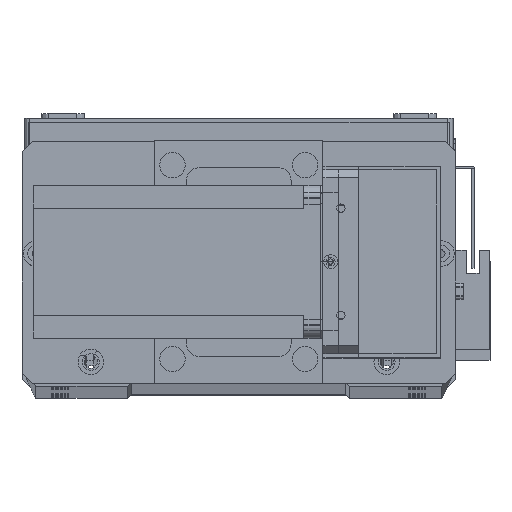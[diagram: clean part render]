
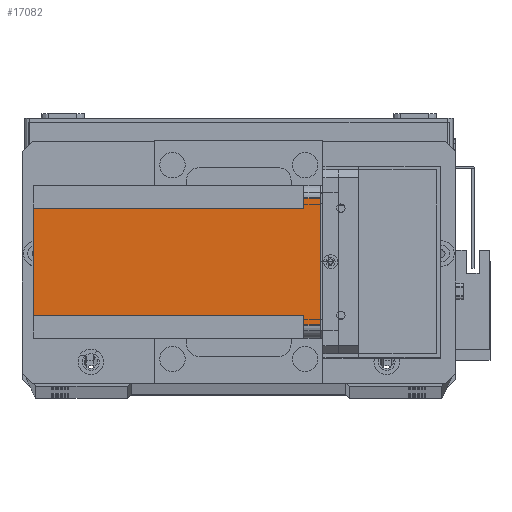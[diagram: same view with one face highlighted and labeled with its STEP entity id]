
A CAD part, top view. The second image highlights one B-rep face of the part: STEP entity #17082.
In plain terms, the highlighted planar face has unit normal (0, 0, 1) as drawn and (-1, 0, 0) by its records, which use the part's own axes.
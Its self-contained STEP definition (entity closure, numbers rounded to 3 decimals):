
#320 = DIRECTION ( 'NONE',  ( 0., 0., -1. ) ) ;
#520 = DIRECTION ( 'NONE',  ( 0., -1., 0. ) ) ;
#1404 = LINE ( 'NONE', #12863, #7713 ) ;
#2229 = LINE ( 'NONE', #19521, #8540 ) ;
#2721 = VERTEX_POINT ( 'NONE', #5644 ) ;
#3143 = ORIENTED_EDGE ( 'NONE', *, *, #26047, .F. ) ;
#5190 = CARTESIAN_POINT ( 'NONE',  ( 0., 0., -112.5 ) ) ;
#5413 = CARTESIAN_POINT ( 'NONE',  ( 0., 51., -112.5 ) ) ;
#5644 = CARTESIAN_POINT ( 'NONE',  ( 0., 9., -112.5 ) ) ;
#5870 = AXIS2_PLACEMENT_3D ( 'NONE', #19189, #19038, #19008 ) ;
#5956 = VERTEX_POINT ( 'NONE', #28778 ) ;
#6110 = CARTESIAN_POINT ( 'NONE',  ( 0., 55., -6.5 ) ) ;
#7319 = CARTESIAN_POINT ( 'NONE',  ( 0., 5., -6.5 ) ) ;
#7713 = VECTOR ( 'NONE', #10326, 1000. ) ;
#8396 = VERTEX_POINT ( 'NONE', #5413 ) ;
#8540 = VECTOR ( 'NONE', #22154, 1000. ) ;
#10066 = ORIENTED_EDGE ( 'NONE', *, *, #25674, .T. ) ;
#10326 = DIRECTION ( 'NONE',  ( 0., 0., 1. ) ) ;
#10865 = CARTESIAN_POINT ( 'NONE',  ( 0., 9., -112.5 ) ) ;
#12863 = CARTESIAN_POINT ( 'NONE',  ( 0., 51., -112.5 ) ) ;
#13460 = VERTEX_POINT ( 'NONE', #15165 ) ;
#14254 = CARTESIAN_POINT ( 'NONE',  ( 0., 9., -6.5 ) ) ;
#15165 = CARTESIAN_POINT ( 'NONE',  ( 0., 55., 0. ) ) ;
#16310 = VECTOR ( 'NONE', #520, 1000. ) ;
#17082 = ADVANCED_FACE ( 'NONE', ( #24280 ), #19217, .T. ) ;
#17959 = VECTOR ( 'NONE', #23994, 1000. ) ;
#18222 = ORIENTED_EDGE ( 'NONE', *, *, #25539, .F. ) ;
#19008 = DIRECTION ( 'NONE',  ( 0., -1., 0. ) ) ;
#19038 = DIRECTION ( 'NONE',  ( -1., 0., 0. ) ) ;
#19189 = CARTESIAN_POINT ( 'NONE',  ( 0., 0., -112.5 ) ) ;
#19217 = PLANE ( 'NONE',  #5870 ) ;
#19521 = CARTESIAN_POINT ( 'NONE',  ( 0., 5., -112.5 ) ) ;
#21138 = CARTESIAN_POINT ( 'NONE',  ( 0., 5., 0. ) ) ;
#21283 = ORIENTED_EDGE ( 'NONE', *, *, #25590, .T. ) ;
#21484 = ORIENTED_EDGE ( 'NONE', *, *, #25958, .T. ) ;
#21513 = ORIENTED_EDGE ( 'NONE', *, *, #25812, .F. ) ;
#21645 = CARTESIAN_POINT ( 'NONE',  ( 0., 0., 0. ) ) ;
#22005 = ORIENTED_EDGE ( 'NONE', *, *, #24864, .F. ) ;
#22154 = DIRECTION ( 'NONE',  ( 0., 0., 1. ) ) ;
#23623 = DIRECTION ( 'NONE',  ( 0., -1., 0. ) ) ;
#23674 = VECTOR ( 'NONE', #320, 1000. ) ;
#23994 = DIRECTION ( 'NONE',  ( 0., 1., 0. ) ) ;
#24080 = LINE ( 'NONE', #21645, #16310 ) ;
#24280 = FACE_OUTER_BOUND ( 'NONE', #33438, .T. ) ;
#24411 = CARTESIAN_POINT ( 'NONE',  ( 0., 0., -6.5 ) ) ;
#24854 = DIRECTION ( 'NONE',  ( 0., 0., -1. ) ) ;
#24864 = EDGE_CURVE ( 'NONE', #13460, #28950, #24080, .T. ) ;
#25539 = EDGE_CURVE ( 'NONE', #26585, #31428, #30680, .T. ) ;
#25590 = EDGE_CURVE ( 'NONE', #26585, #28950, #2229, .T. ) ;
#25659 = LINE ( 'NONE', #27999, #31470 ) ;
#25674 = EDGE_CURVE ( 'NONE', #13460, #26977, #27595, .T. ) ;
#25812 = EDGE_CURVE ( 'NONE', #5956, #26977, #25659, .T. ) ;
#25919 = EDGE_CURVE ( 'NONE', #8396, #5956, #1404, .T. ) ;
#25958 = EDGE_CURVE ( 'NONE', #8396, #2721, #27594, .T. ) ;
#26047 = EDGE_CURVE ( 'NONE', #31428, #2721, #30286, .T. ) ;
#26585 = VERTEX_POINT ( 'NONE', #7319 ) ;
#26977 = VERTEX_POINT ( 'NONE', #6110 ) ;
#27256 = ORIENTED_EDGE ( 'NONE', *, *, #25919, .F. ) ;
#27594 = LINE ( 'NONE', #5190, #33406 ) ;
#27595 = LINE ( 'NONE', #32333, #28367 ) ;
#27999 = CARTESIAN_POINT ( 'NONE',  ( 0., 60., -6.5 ) ) ;
#28367 = VECTOR ( 'NONE', #24854, 1000. ) ;
#28778 = CARTESIAN_POINT ( 'NONE',  ( 0., 51., -6.5 ) ) ;
#28950 = VERTEX_POINT ( 'NONE', #21138 ) ;
#30286 = LINE ( 'NONE', #10865, #23674 ) ;
#30680 = LINE ( 'NONE', #24411, #17959 ) ;
#31428 = VERTEX_POINT ( 'NONE', #14254 ) ;
#31470 = VECTOR ( 'NONE', #32867, 1000. ) ;
#32333 = CARTESIAN_POINT ( 'NONE',  ( 0., 55., -112.5 ) ) ;
#32867 = DIRECTION ( 'NONE',  ( 0., 1., 0. ) ) ;
#33406 = VECTOR ( 'NONE', #23623, 1000. ) ;
#33438 = EDGE_LOOP ( 'NONE', ( #18222, #21283, #22005, #10066, #21513, #27256, #21484, #3143 ) ) ;
